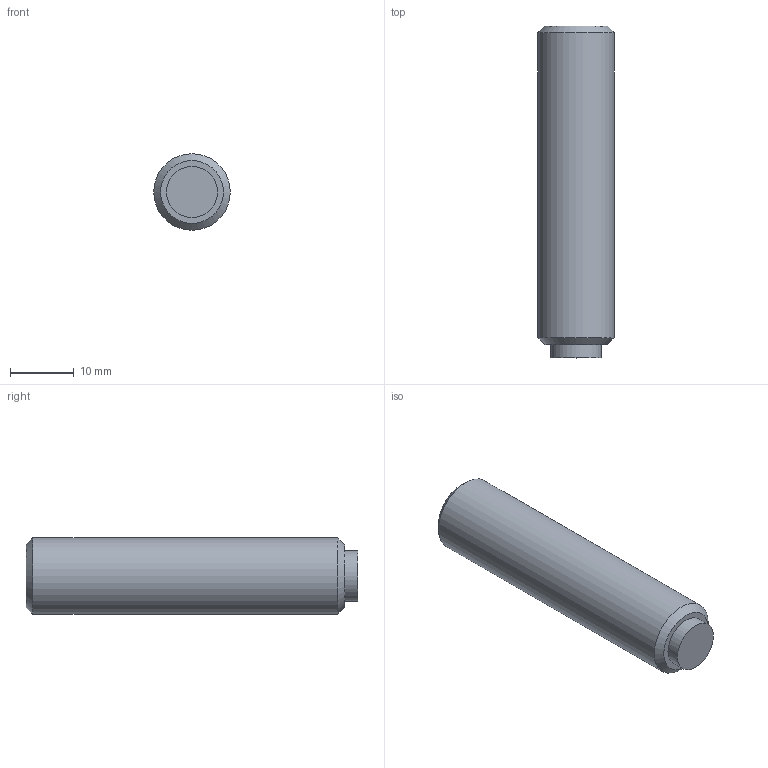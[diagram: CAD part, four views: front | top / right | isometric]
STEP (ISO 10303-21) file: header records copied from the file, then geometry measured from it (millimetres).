
FILE_DESCRIPTION( ( 'STEP AP203' ), '1' );
FILE_NAME( 'C:/Temp/Ganter_Step_05_03_2020/data/3_2/gn913_3/Grub screw GN 913.3-M12-50-KU.stp', '2020-03-13T05:35:41', ( 'License CC BY-ND 4.0' ), ( 'CADENAS' ), ' ', 'PARTsolutions', ' ' );
FILE_SCHEMA( ( 'CONFIG_CONTROL_DESIGN' ) );
Length unit declared in the file: millimetre
Products named in the file (1): _Grub screw GN 913.3-M12-50-KU
Bounding box: 12 x 52.1 x 12 mm (x, y, z)
Volume: 5470.2 mm3; surface area: 2279.8 mm2
Topology: 1 solids, 1 shells, 14 faces, 28 edges, 18 vertices
Faces by surface type: plane 10, cylinder 2, cone 2
Full cylindrical faces by diameter (mm): 8 x1, 12 x1
Entity records: 386 total; most frequent: DIRECTION 60, CARTESIAN_POINT 57, ORIENTED_EDGE 48, EDGE_CURVE 24, AXIS2_PLACEMENT_3D 21, EDGE_LOOP 20, VERTEX_POINT 18, LINE 18
